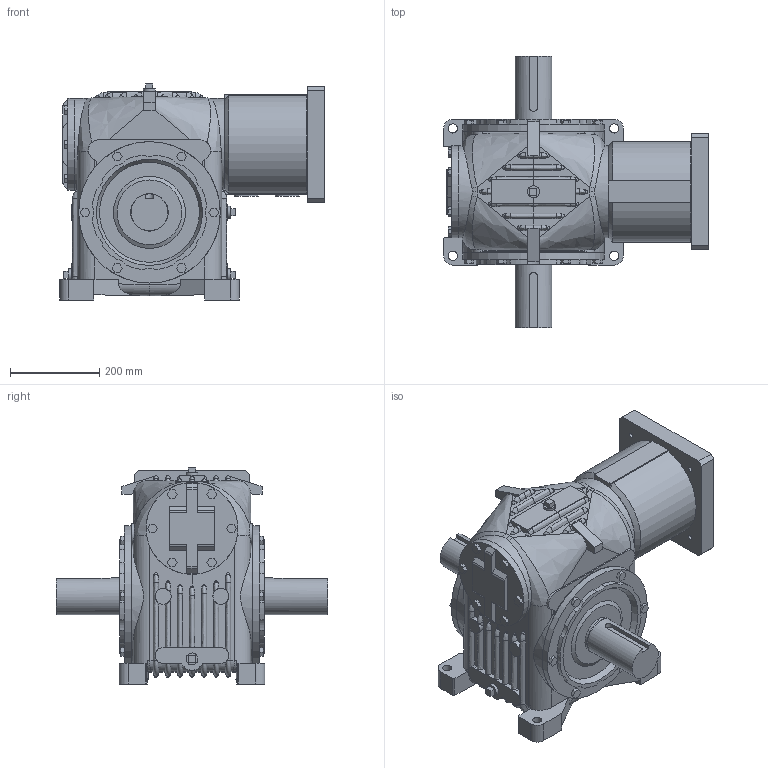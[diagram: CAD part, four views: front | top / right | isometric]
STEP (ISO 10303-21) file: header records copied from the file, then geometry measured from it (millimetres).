
FILE_DESCRIPTION(/* description */ ('Unknown'),/* implementation_level */ '2;1');
FILE_NAME(/* name */ 'O60CB-3-R12SBD-',/* time_stamp */ '2024-11-21T11:40:15-05:00',/* author */ ('Unknown'),/* organization */ ('Unknown'),/* preprocessor_version */ 'ST-DEVELOPER v19.4',/* originating_system */ 'Solid Edge',/* authorisation */ 'Unknown');
FILE_SCHEMA (('AUTOMOTIVE_DESIGN {1 0 10303 214 3 1 1}'));
Length unit declared in the file: millimetre
Products named in the file (7): O60CB-3-R12SBD-; 60-1-CP; 60-OUTS; 60-WCAP; 60-SM20-CP; MP4R-12-CP; KM600-S-48
Assembly tree (7 placements, depth 2):
  O60CB-3-R12SBD-
    60-1-CP
    60-OUTS  x2
    60-WCAP
    60-SM20-CP
    MP4R-12-CP
    KM600-S-48
Bounding box: 594.31 x 609.65 x 484.92 mm (x, y, z)
Volume: 42519895.5 mm3; surface area: 2123798.3 mm2
Topology: 7 solids, 7 shells, 717 faces, 1857 edges, 1227 vertices
Faces by surface type: plane 402, cylinder 178, bspline 128, cone 9
Full cylindrical faces by diameter (mm): 0.254 x9, 10.106 x4, 12.7 x8, 19.05 x6, 20.637 x4, 26.924 x4, 35.56 x4, 44.437 x1, 44.45 x1, 46.038 x1, 82.537 x2, 84.138 x2, 94.5 x1, 98.425 x1, 122 x1, 139 x1, 152.4 x1, 152.908 x1, 155.575 x1, 199.998 x1, 200 x1, 206.248 x3, 209.55 x1, 230 x1, 317.5 x4
Entity records: 33500 total; most frequent: CARTESIAN_POINT 17906, ORIENTED_EDGE 3100, DIRECTION 2542, EDGE_CURVE 1550, VERTEX_POINT 1055, AXIS2_PLACEMENT_3D 878, LINE 786, VECTOR 786
